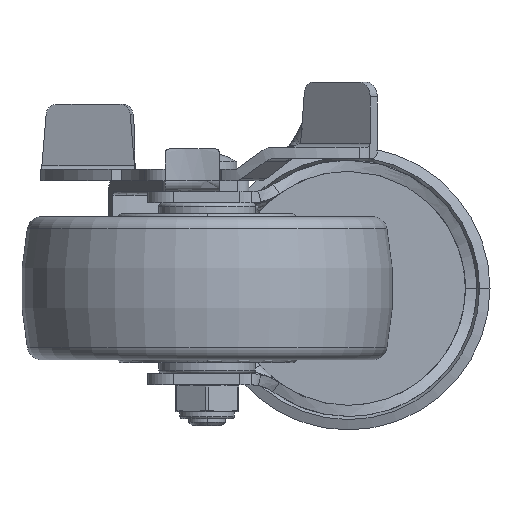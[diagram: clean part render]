
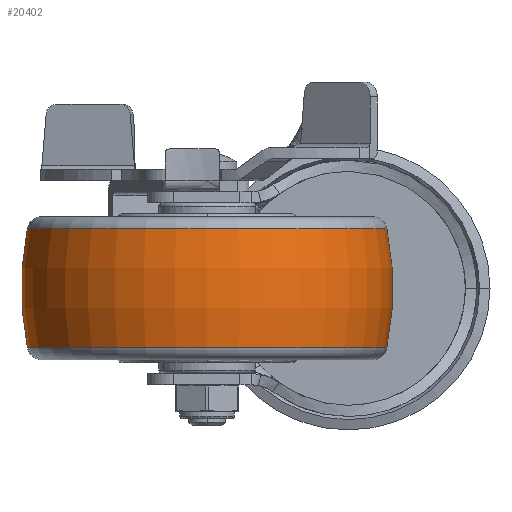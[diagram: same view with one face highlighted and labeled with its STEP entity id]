
A CAD part, front view. The second image highlights one B-rep face of the part: STEP entity #20402.
In plain terms, the highlighted toroidal (fillet/blend) face has major radius 30 mm and minor radius 80 mm.
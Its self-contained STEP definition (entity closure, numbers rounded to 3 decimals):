
#131 = DIRECTION ( 'NONE',  ( 0., 0., 1. ) ) ;
#354 = CARTESIAN_POINT ( 'NONE',  ( -70.663, 52.334, 0. ) ) ;
#1156 = ORIENTED_EDGE ( 'NONE', *, *, #39859, .T. ) ;
#2807 = DIRECTION ( 'NONE',  ( 0., 0., -1. ) ) ;
#2894 = DIRECTION ( 'NONE',  ( 0., 0., 1. ) ) ;
#2956 = VERTEX_POINT ( 'NONE', #45287 ) ;
#8497 = VERTEX_POINT ( 'NONE', #27812 ) ;
#9771 = CARTESIAN_POINT ( 'NONE',  ( -54.61, 52.334, -48.373 ) ) ;
#10760 = VERTEX_POINT ( 'NONE', #33440 ) ;
#12581 = AXIS2_PLACEMENT_3D ( 'NONE', #65477, #33710, #2807 ) ;
#16036 = DIRECTION ( 'NONE',  ( 0., 0., 1. ) ) ;
#16307 = AXIS2_PLACEMENT_3D ( 'NONE', #55522, #44770, #2894 ) ;
#17789 = ORIENTED_EDGE ( 'NONE', *, *, #59349, .F. ) ;
#19591 = DIRECTION ( 'NONE',  ( -1., 0., 0. ) ) ;
#20210 = AXIS2_PLACEMENT_3D ( 'NONE', #354, #32166, #131 ) ;
#20402 = ADVANCED_FACE ( 'NONE', ( #49453 ), #63346, .T. ) ;
#25001 = EDGE_CURVE ( 'NONE', #66298, #10760, #27261, .T. ) ;
#27261 = CIRCLE ( 'NONE', #16307, 80. ) ;
#27423 = AXIS2_PLACEMENT_3D ( 'NONE', #42125, #36860, #16036 ) ;
#27812 = CARTESIAN_POINT ( 'NONE',  ( -86.715, 52.334, 48.373 ) ) ;
#31418 = EDGE_LOOP ( 'NONE', ( #58048, #38009, #1156, #17789 ) ) ;
#32166 = DIRECTION ( 'NONE',  ( -1., 0., 0. ) ) ;
#33440 = CARTESIAN_POINT ( 'NONE',  ( -86.715, 52.334, -48.373 ) ) ;
#33710 = DIRECTION ( 'NONE',  ( 0., -1., 0. ) ) ;
#36148 = EDGE_CURVE ( 'NONE', #66298, #2956, #48227, .T. ) ;
#36860 = DIRECTION ( 'NONE',  ( -1., 0., 0. ) ) ;
#38009 = ORIENTED_EDGE ( 'NONE', *, *, #36148, .T. ) ;
#39859 = EDGE_CURVE ( 'NONE', #2956, #8497, #64462, .T. ) ;
#40208 = DIRECTION ( 'NONE',  ( 0., 0., 1. ) ) ;
#42125 = CARTESIAN_POINT ( 'NONE',  ( -54.61, 52.334, 0. ) ) ;
#44770 = DIRECTION ( 'NONE',  ( 0., 1., 0. ) ) ;
#45287 = CARTESIAN_POINT ( 'NONE',  ( -54.61, 52.334, 48.373 ) ) ;
#48227 = CIRCLE ( 'NONE', #27423, 48.373 ) ;
#49453 = FACE_OUTER_BOUND ( 'NONE', #31418, .T. ) ;
#53227 = AXIS2_PLACEMENT_3D ( 'NONE', #66016, #19591, #40208 ) ;
#55522 = CARTESIAN_POINT ( 'NONE',  ( -70.663, 52.334, 30. ) ) ;
#58048 = ORIENTED_EDGE ( 'NONE', *, *, #25001, .F. ) ;
#59349 = EDGE_CURVE ( 'NONE', #10760, #8497, #63113, .T. ) ;
#63113 = CIRCLE ( 'NONE', #53227, 48.373 ) ;
#63346 = TOROIDAL_SURFACE ( 'NONE', #20210, -30., 80. ) ;
#64462 = CIRCLE ( 'NONE', #12581, 80. ) ;
#65477 = CARTESIAN_POINT ( 'NONE',  ( -70.663, 52.334, -30. ) ) ;
#66016 = CARTESIAN_POINT ( 'NONE',  ( -86.715, 52.334, 0. ) ) ;
#66298 = VERTEX_POINT ( 'NONE', #9771 ) ;
